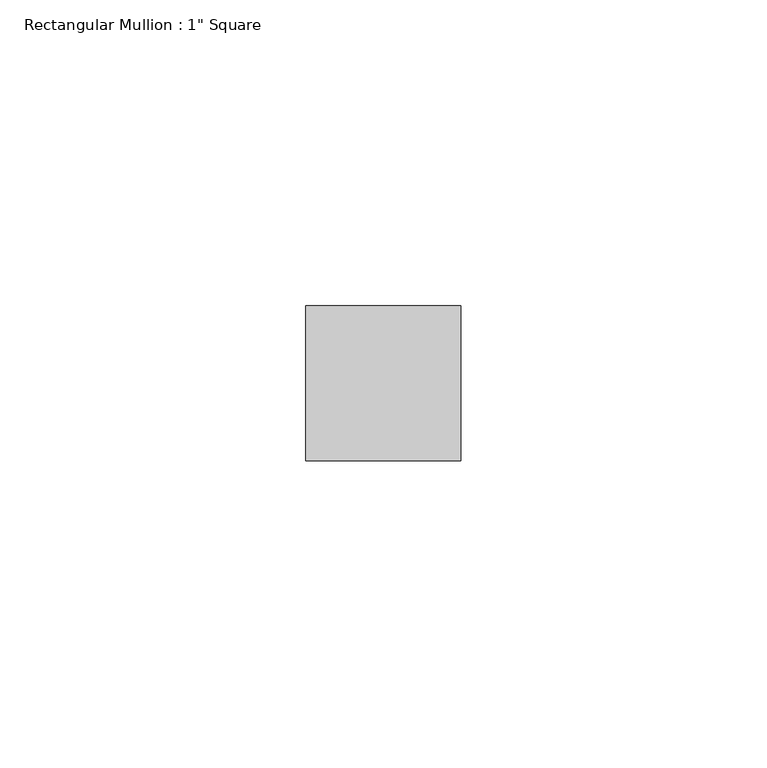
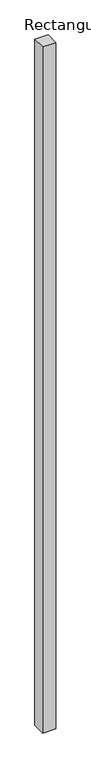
"""IFC4 building model written with IfcOpenShell, lengths in millimetres: member geometry."""

from ifc_helpers import new_model, si_unit, frame, origin, place, context, project, spatial, polyline, outline, extrude, source, transform, mapped, element, save


def member_f7f5578b(model_context):
    return source(origin(), model_context, "Body", "SweptSolid", [
        extrude(outline(polyline([(12.7, 12.7), (12.7, -12.7), (-12.7, -12.7), (-12.7, 12.7), (12.7, 12.7)])), frame((0.0, 0.0, -1387.1119435), z_axis=(0.0, 0.0, 1.0), x_axis=(1.0, 0.0, 0.0)), (0.0, 0.0, 1.0), 1387.1119435),
    ])


if __name__ == "__main__":
    model = new_model("IFC4")
    model_context = context("Model", 3, world=origin())
    ifc_project = project(units=[si_unit("LENGTHUNIT", "METRE", prefix="MILLI")], contexts=[model_context])
    site = spatial("IfcSite", under=ifc_project)
    building = spatial("IfcBuilding", under=site)
    placement = place(None, origin())
    member_shape = member_f7f5578b(model_context)
    element("IfcMember", 1, ObjectType="Rectangular Mullion : 1\" Square", at=placement, inside=building, context=model_context, shape_type="MappedRepresentation", body=[
        mapped(member_shape, transform((0.0, 0.0, 0.0), x_axis=(1.0, 0.0, 0.0), y_axis=(0.0, 1.0, 0.0), z_axis=(0.0, 0.0, 1.0))),
    ])
    save(model, "model.ifc")
